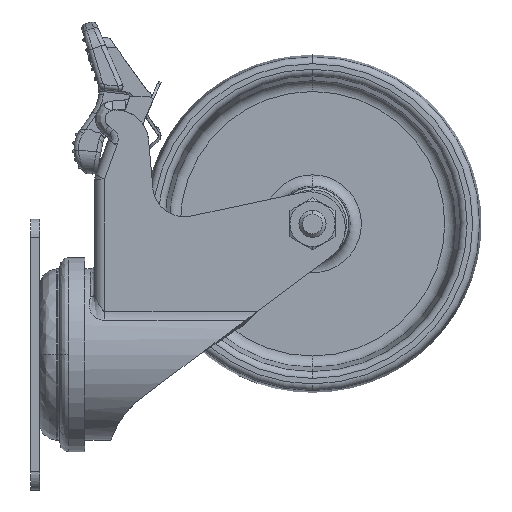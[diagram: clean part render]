
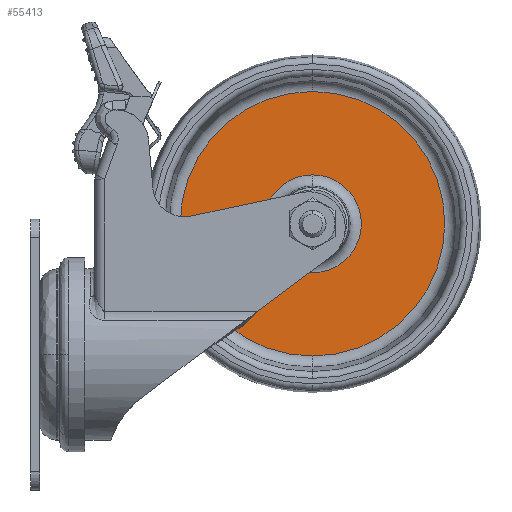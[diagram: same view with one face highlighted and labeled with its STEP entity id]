
A CAD part, left-side view. The second image highlights one B-rep face of the part: STEP entity #55413.
In plain terms, the highlighted planar face has unit normal (-1, 0, 0).
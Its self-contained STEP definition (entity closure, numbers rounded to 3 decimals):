
#10745 = VERTEX_POINT ( 'NONE', #71859 ) ;
#10757 = VERTEX_POINT ( 'NONE', #71871 ) ;
#10760 = VERTEX_POINT ( 'NONE', #71874 ) ;
#10772 = VERTEX_POINT ( 'NONE', #71886 ) ;
#14954 = FACE_BOUND ( 'NONE', #84021, .T. ) ;
#14999 = FACE_OUTER_BOUND ( 'NONE', #84017, .T. ) ;
#43052 = ORIENTED_EDGE ( 'NONE', *, *, #88114, .F. ) ;
#43053 = ORIENTED_EDGE ( 'NONE', *, *, #87583, .F. ) ;
#43054 = ORIENTED_EDGE ( 'NONE', *, *, #88091, .T. ) ;
#43055 = ORIENTED_EDGE ( 'NONE', *, *, #87588, .T. ) ;
#50107 = AXIS2_PLACEMENT_3D ( 'NONE', #79256, #79263, #79264 ) ;
#50108 = AXIS2_PLACEMENT_3D ( 'NONE', #79262, #79274, #79276 ) ;
#50142 = AXIS2_PLACEMENT_3D ( 'NONE', #89232, #89251, #89253 ) ;
#50152 = AXIS2_PLACEMENT_3D ( 'NONE', #89304, #89318, #89320 ) ;
#55413 = ADVANCED_FACE ( 'NONE', ( #14954, #14999 ), #85781, .F. ) ;
#71859 = CARTESIAN_POINT ( 'NONE',  ( -2.5, 0., -10.842 ) ) ;
#71871 = CARTESIAN_POINT ( 'NONE',  ( -2.5, 0., 29.315 ) ) ;
#71874 = CARTESIAN_POINT ( 'NONE',  ( -2.5, 0., -29.315 ) ) ;
#71886 = CARTESIAN_POINT ( 'NONE',  ( -2.5, 0., 10.842 ) ) ;
#79256 = CARTESIAN_POINT ( 'NONE',  ( -2.5, 0., 0. ) ) ;
#79262 = CARTESIAN_POINT ( 'NONE',  ( -2.5, 0., 0. ) ) ;
#79263 = DIRECTION ( 'NONE',  ( -1., 0., 0. ) ) ;
#79264 = DIRECTION ( 'NONE',  ( 0., 0., 1. ) ) ;
#79274 = DIRECTION ( 'NONE',  ( -1., 0., 0. ) ) ;
#79276 = DIRECTION ( 'NONE',  ( 0., 0., 1. ) ) ;
#80533 = CIRCLE ( 'NONE', #50107, 10.842 ) ;
#80536 = CIRCLE ( 'NONE', #50108, 29.315 ) ;
#80890 = CIRCLE ( 'NONE', #50142, 29.315 ) ;
#80925 = CIRCLE ( 'NONE', #50152, 10.842 ) ;
#84017 = EDGE_LOOP ( 'NONE', ( #43054, #43055 ) ) ;
#84021 = EDGE_LOOP ( 'NONE', ( #43052, #43053 ) ) ;
#85780 = CARTESIAN_POINT ( 'NONE',  ( -2.5, 29.315, 0. ) ) ;
#85781 = PLANE ( 'NONE',  #92176 ) ;
#85789 = DIRECTION ( 'NONE',  ( 1., 0., 0. ) ) ;
#85790 = DIRECTION ( 'NONE',  ( 0., 0., -1. ) ) ;
#87583 = EDGE_CURVE ( 'NONE', #10745, #10772, #80533, .T. ) ;
#87588 = EDGE_CURVE ( 'NONE', #10760, #10757, #80536, .T. ) ;
#88091 = EDGE_CURVE ( 'NONE', #10757, #10760, #80890, .T. ) ;
#88114 = EDGE_CURVE ( 'NONE', #10772, #10745, #80925, .T. ) ;
#89232 = CARTESIAN_POINT ( 'NONE',  ( -2.5, 0., 0. ) ) ;
#89251 = DIRECTION ( 'NONE',  ( -1., 0., 0. ) ) ;
#89253 = DIRECTION ( 'NONE',  ( 0., 0., 1. ) ) ;
#89304 = CARTESIAN_POINT ( 'NONE',  ( -2.5, 0., 0. ) ) ;
#89318 = DIRECTION ( 'NONE',  ( -1., 0., 0. ) ) ;
#89320 = DIRECTION ( 'NONE',  ( 0., 0., 1. ) ) ;
#92176 = AXIS2_PLACEMENT_3D ( 'NONE', #85780, #85789, #85790 ) ;
